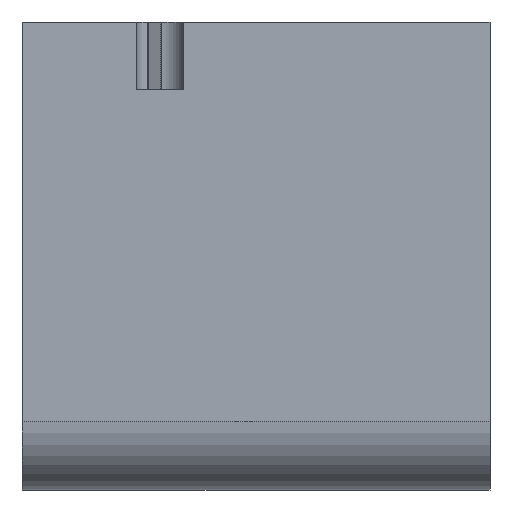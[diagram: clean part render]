
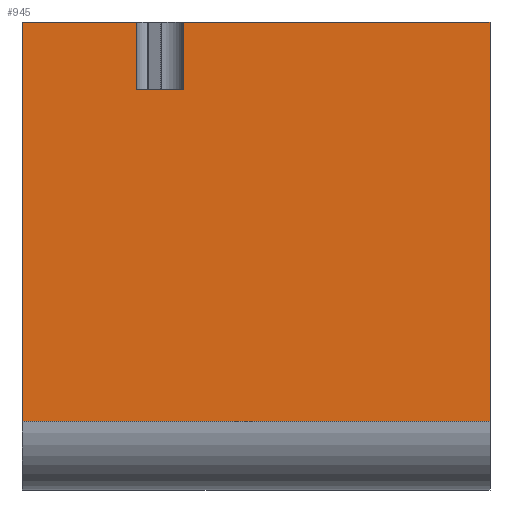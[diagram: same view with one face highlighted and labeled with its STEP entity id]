
A CAD part, left-side view. The second image highlights one B-rep face of the part: STEP entity #945.
In plain terms, the highlighted planar face has unit normal (-1, 0, 0).
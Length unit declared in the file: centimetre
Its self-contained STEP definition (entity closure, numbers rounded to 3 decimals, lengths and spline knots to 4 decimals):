
#2 = VERTEX_POINT ( 'NONE', #858 ) ;
#28 = CARTESIAN_POINT ( 'NONE',  ( 0., 654.1282, 856.5268 ) ) ;
#33 = DIRECTION ( 'NONE',  ( 0., -1., 0. ) ) ;
#37 = VERTEX_POINT ( 'NONE', #691 ) ;
#42 = EDGE_CURVE ( 'NONE', #1102, #2, #275, .T. ) ;
#74 = CARTESIAN_POINT ( 'NONE',  ( 0., 1000., 1000. ) ) ;
#78 = CARTESIAN_POINT ( 'NONE',  ( 0., 1000., 146.9784 ) ) ;
#84 = CARTESIAN_POINT ( 'NONE',  ( 0., 0., 1000. ) ) ;
#103 = ORIENTED_EDGE ( 'NONE', *, *, #597, .T. ) ;
#108 = DIRECTION ( 'NONE',  ( 0., -1., 0. ) ) ;
#137 = DIRECTION ( 'NONE',  ( 0., 0., 1. ) ) ;
#140 = VECTOR ( 'NONE', #989, 100. ) ;
#275 = LINE ( 'NONE', #406, #1666 ) ;
#311 = LINE ( 'NONE', #1328, #925 ) ;
#325 = VERTEX_POINT ( 'NONE', #1051 ) ;
#332 = ORIENTED_EDGE ( 'NONE', *, *, #42, .F. ) ;
#356 = CARTESIAN_POINT ( 'NONE',  ( 0., 1000., 1000. ) ) ;
#384 = LINE ( 'NONE', #356, #1359 ) ;
#402 = EDGE_CURVE ( 'NONE', #1194, #2, #311, .T. ) ;
#406 = CARTESIAN_POINT ( 'NONE',  ( 0., 0., 1000. ) ) ;
#407 = CARTESIAN_POINT ( 'NONE',  ( 0., 1000., 1000. ) ) ;
#428 = VERTEX_POINT ( 'NONE', #504 ) ;
#504 = CARTESIAN_POINT ( 'NONE',  ( 0., 654.1282, 1000. ) ) ;
#508 = EDGE_CURVE ( 'NONE', #1217, #325, #1633, .T. ) ;
#558 = VECTOR ( 'NONE', #997, 100. ) ;
#597 = EDGE_CURVE ( 'NONE', #680, #325, #1535, .T. ) ;
#680 = VERTEX_POINT ( 'NONE', #821 ) ;
#682 = EDGE_CURVE ( 'NONE', #680, #37, #1407, .T. ) ;
#691 = CARTESIAN_POINT ( 'NONE',  ( 0., 654.1282, 856.5268 ) ) ;
#700 = LINE ( 'NONE', #28, #1615 ) ;
#741 = VECTOR ( 'NONE', #923, 100. ) ;
#754 = ORIENTED_EDGE ( 'NONE', *, *, #508, .F. ) ;
#795 = EDGE_CURVE ( 'NONE', #37, #428, #700, .T. ) ;
#799 = EDGE_CURVE ( 'NONE', #1217, #1194, #1009, .T. ) ;
#815 = DIRECTION ( 'NONE',  ( 0., -1., 0. ) ) ;
#821 = CARTESIAN_POINT ( 'NONE',  ( 0., 754.9498, 856.5268 ) ) ;
#858 = CARTESIAN_POINT ( 'NONE',  ( 0., 0., 146.9784 ) ) ;
#919 = DIRECTION ( 'NONE',  ( 1., 0., 0. ) ) ;
#923 = DIRECTION ( 'NONE',  ( 0., -1., 0. ) ) ;
#925 = VECTOR ( 'NONE', #33, 100. ) ;
#945 = ADVANCED_FACE ( 'NONE', ( #1620 ), #1056, .F. ) ;
#963 = ORIENTED_EDGE ( 'NONE', *, *, #1153, .F. ) ;
#978 = CARTESIAN_POINT ( 'NONE',  ( 0., 1000., 856.5268 ) ) ;
#989 = DIRECTION ( 'NONE',  ( 0., 0., 1. ) ) ;
#996 = DIRECTION ( 'NONE',  ( 0., 0., -1. ) ) ;
#997 = DIRECTION ( 'NONE',  ( 0., 0., -1. ) ) ;
#1009 = LINE ( 'NONE', #407, #558 ) ;
#1028 = AXIS2_PLACEMENT_3D ( 'NONE', #1780, #919, #1756 ) ;
#1051 = CARTESIAN_POINT ( 'NONE',  ( 0., 754.9498, 1000. ) ) ;
#1056 = PLANE ( 'NONE',  #1028 ) ;
#1102 = VERTEX_POINT ( 'NONE', #84 ) ;
#1153 = EDGE_CURVE ( 'NONE', #428, #1102, #384, .T. ) ;
#1169 = ORIENTED_EDGE ( 'NONE', *, *, #799, .T. ) ;
#1186 = ORIENTED_EDGE ( 'NONE', *, *, #402, .T. ) ;
#1194 = VERTEX_POINT ( 'NONE', #78 ) ;
#1217 = VERTEX_POINT ( 'NONE', #1460 ) ;
#1278 = EDGE_LOOP ( 'NONE', ( #1705, #103, #754, #1169, #1186, #332, #963, #1480 ) ) ;
#1290 = VECTOR ( 'NONE', #108, 100. ) ;
#1328 = CARTESIAN_POINT ( 'NONE',  ( 0., 1000., 146.9784 ) ) ;
#1359 = VECTOR ( 'NONE', #815, 100. ) ;
#1407 = LINE ( 'NONE', #978, #1290 ) ;
#1460 = CARTESIAN_POINT ( 'NONE',  ( 0., 1000., 1000. ) ) ;
#1480 = ORIENTED_EDGE ( 'NONE', *, *, #795, .F. ) ;
#1535 = LINE ( 'NONE', #1669, #140 ) ;
#1615 = VECTOR ( 'NONE', #137, 100. ) ;
#1620 = FACE_OUTER_BOUND ( 'NONE', #1278, .T. ) ;
#1633 = LINE ( 'NONE', #74, #741 ) ;
#1666 = VECTOR ( 'NONE', #996, 100. ) ;
#1669 = CARTESIAN_POINT ( 'NONE',  ( 0., 754.9498, 856.5268 ) ) ;
#1705 = ORIENTED_EDGE ( 'NONE', *, *, #682, .F. ) ;
#1756 = DIRECTION ( 'NONE',  ( 0., 0., -1. ) ) ;
#1780 = CARTESIAN_POINT ( 'NONE',  ( 0., 1000., 1000. ) ) ;
